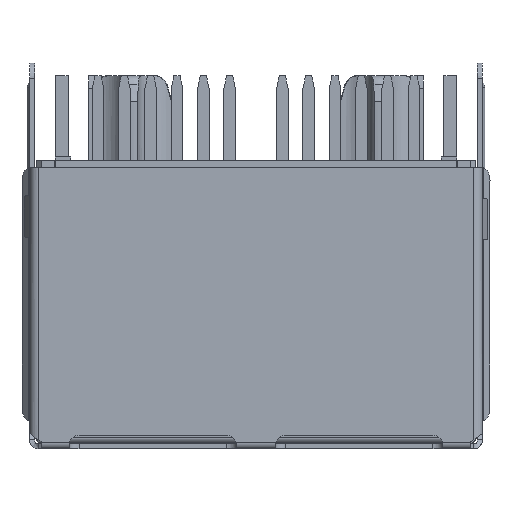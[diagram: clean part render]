
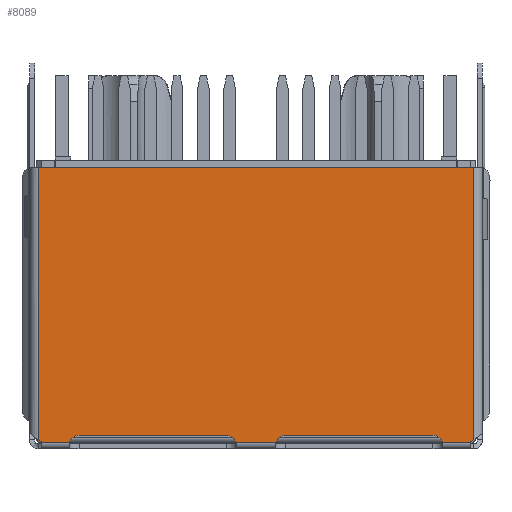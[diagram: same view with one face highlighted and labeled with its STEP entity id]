
A CAD part, front view. The second image highlights one B-rep face of the part: STEP entity #8089.
In plain terms, the highlighted planar face has unit normal (0, -1, 0) as drawn and (1, 0, 0) by its records, which use the part's own axes.
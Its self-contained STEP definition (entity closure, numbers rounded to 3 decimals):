
#2037=DIRECTION('',(0.,-1.,0.));
#2038=VECTOR('',#2037,0.032);
#2039=CARTESIAN_POINT('',(16.019,7.84,8.32));
#2040=LINE('',#2039,#2038);
#2045=CARTESIAN_POINT('',(16.019,7.958,-6.85));
#2046=DIRECTION('',(1.,0.,0.));
#2047=DIRECTION('',(0.,-1.,0.));
#2048=AXIS2_PLACEMENT_3D('',#2045,#2046,#2047);
#2050=DIRECTION('',(0.,-0.609,-0.793));
#2051=VECTOR('',#2050,0.126);
#2052=CARTESIAN_POINT('',(16.019,7.808,-8.32));
#2053=LINE('',#2052,#2051);
#2054=DIRECTION('',(0.,-1.,0.));
#2055=VECTOR('',#2054,10.543);
#2056=CARTESIAN_POINT('',(16.019,7.731,-8.42));
#2057=LINE('',#2056,#2055);
#2058=DIRECTION('',(0.,1.,0.));
#2059=VECTOR('',#2058,10.543);
#2060=CARTESIAN_POINT('',(16.019,-2.812,8.42));
#2061=LINE('',#2060,#2059);
#2062=DIRECTION('',(0.,0.609,-0.793));
#2063=VECTOR('',#2062,0.126);
#2064=CARTESIAN_POINT('',(16.019,7.731,8.42));
#2065=LINE('',#2064,#2063);
#2066=CARTESIAN_POINT('',(16.019,7.958,6.85));
#2067=DIRECTION('',(1.,0.,0.));
#2068=DIRECTION('',(0.,-0.295,0.956));
#2069=AXIS2_PLACEMENT_3D('',#2066,#2067,#2068);
#2071=CARTESIAN_POINT('',(16.019,7.958,1.15));
#2072=DIRECTION('',(1.,0.,0.));
#2073=DIRECTION('',(0.,-1.,0.));
#2074=AXIS2_PLACEMENT_3D('',#2071,#2072,#2073);
#2076=CARTESIAN_POINT('',(16.019,7.958,-1.15));
#2077=DIRECTION('',(1.,0.,0.));
#2078=DIRECTION('',(0.,-0.295,0.956));
#2079=AXIS2_PLACEMENT_3D('',#2076,#2077,#2078);
#2171=DIRECTION('',(0.,0.,1.));
#2172=VECTOR('',#2171,5.7);
#2173=CARTESIAN_POINT('',(16.019,7.558,1.15));
#2174=LINE('',#2173,#2172);
#2292=DIRECTION('',(0.,1.,0.));
#2293=VECTOR('',#2292,0.032);
#2294=CARTESIAN_POINT('',(16.019,7.808,-8.32));
#2295=LINE('',#2294,#2293);
#2520=DIRECTION('',(0.,0.,-1.));
#2521=VECTOR('',#2520,16.84);
#2522=CARTESIAN_POINT('',(16.019,-2.812,8.42));
#2523=LINE('',#2522,#2521);
#2855=DIRECTION('',(0.,0.,1.));
#2856=VECTOR('',#2855,1.088);
#2857=CARTESIAN_POINT('',(16.019,7.84,-8.32));
#2858=LINE('',#2857,#2856);
#2863=DIRECTION('',(0.,0.,1.));
#2864=VECTOR('',#2863,1.535);
#2865=CARTESIAN_POINT('',(16.019,7.84,
-0.768));
#2866=LINE('',#2865,#2864);
#2893=DIRECTION('',(0.,0.,1.));
#2894=VECTOR('',#2893,5.7);
#2895=CARTESIAN_POINT('',(16.019,7.558,-6.85));
#2896=LINE('',#2895,#2894);
#2913=DIRECTION('',(0.,0.,1.));
#2914=VECTOR('',#2913,1.088);
#2915=CARTESIAN_POINT('',(16.019,7.84,7.232));
#2916=LINE('',#2915,#2914);
#4845=CARTESIAN_POINT('',(16.019,7.808,8.32));
#4846=VERTEX_POINT('',#4845);
#4847=CARTESIAN_POINT('',(16.019,7.84,8.32));
#4848=VERTEX_POINT('',#4847);
#4849=CARTESIAN_POINT('',(16.019,7.731,8.42));
#4850=VERTEX_POINT('',#4849);
#4851=CARTESIAN_POINT('',(16.019,7.558,-6.85));
#4852=CARTESIAN_POINT('',(16.019,7.84,-7.232));
#4853=VERTEX_POINT('',#4851);
#4854=VERTEX_POINT('',#4852);
#4855=CARTESIAN_POINT('',(16.019,7.84,-8.32));
#4856=VERTEX_POINT('',#4855);
#4857=CARTESIAN_POINT('',(16.019,7.808,-8.32));
#4858=VERTEX_POINT('',#4857);
#4859=CARTESIAN_POINT('',(16.019,7.731,-8.42));
#4860=VERTEX_POINT('',#4859);
#4861=CARTESIAN_POINT('',(16.019,-2.812,
-8.42));
#4862=VERTEX_POINT('',#4861);
#4863=CARTESIAN_POINT('',(16.019,-2.812,8.42));
#4864=VERTEX_POINT('',#4863);
#4865=CARTESIAN_POINT('',(16.019,7.84,7.232));
#4866=VERTEX_POINT('',#4865);
#4867=CARTESIAN_POINT('',(16.019,7.558,6.85));
#4868=VERTEX_POINT('',#4867);
#4869=CARTESIAN_POINT('',(16.019,7.558,1.15));
#4870=VERTEX_POINT('',#4869);
#4871=CARTESIAN_POINT('',(16.019,7.84,0.768));
#4872=VERTEX_POINT('',#4871);
#4873=CARTESIAN_POINT('',(16.019,7.84,
-0.768));
#4874=VERTEX_POINT('',#4873);
#4875=CARTESIAN_POINT('',(16.019,7.558,-1.15));
#4876=VERTEX_POINT('',#4875);
#8052=CARTESIAN_POINT('',(16.019,8.053,-8.757));
#8053=DIRECTION('',(-1.,0.,0.));
#8054=DIRECTION('',(0.,-1.,0.));
#8055=AXIS2_PLACEMENT_3D('',#8052,#8053,#8054);
#8056=PLANE('',#8055);
#8058=ORIENTED_EDGE('',*,*,#8057,.T.);
#8060=ORIENTED_EDGE('',*,*,#8059,.F.);
#8062=ORIENTED_EDGE('',*,*,#8061,.F.);
#8064=ORIENTED_EDGE('',*,*,#8063,.T.);
#8066=ORIENTED_EDGE('',*,*,#8065,.T.);
#8068=ORIENTED_EDGE('',*,*,#8067,.F.);
#8070=ORIENTED_EDGE('',*,*,#8069,.T.);
#8071=ORIENTED_EDGE('',*,*,#8044,.T.);
#8072=ORIENTED_EDGE('',*,*,#8032,.F.);
#8074=ORIENTED_EDGE('',*,*,#8073,.F.);
#8076=ORIENTED_EDGE('',*,*,#8075,.T.);
#8078=ORIENTED_EDGE('',*,*,#8077,.F.);
#8080=ORIENTED_EDGE('',*,*,#8079,.T.);
#8082=ORIENTED_EDGE('',*,*,#8081,.F.);
#8084=ORIENTED_EDGE('',*,*,#8083,.T.);
#8086=ORIENTED_EDGE('',*,*,#8085,.F.);
#8087=EDGE_LOOP('',(#8058,#8060,#8062,#8064,#8066,#8068,#8070,#8071,#8072,#8074,
#8076,#8078,#8080,#8082,#8084,#8086));
#8088=FACE_OUTER_BOUND('',#8087,.F.);
#8089=ADVANCED_FACE('',(#8088),#8056,.F.);
#2049=CIRCLE('',#2048,0.4);
#2070=CIRCLE('',#2069,0.4);
#2075=CIRCLE('',#2074,0.4);
#2080=CIRCLE('',#2079,0.4);
#8032=EDGE_CURVE('',#4848,#4846,#2040,.T.);
#8044=EDGE_CURVE('',#4850,#4846,#2065,.T.);
#8057=EDGE_CURVE('',#4853,#4854,#2049,.T.);
#8059=EDGE_CURVE('',#4856,#4854,#2858,.T.);
#8061=EDGE_CURVE('',#4858,#4856,#2295,.T.);
#8063=EDGE_CURVE('',#4858,#4860,#2053,.T.);
#8065=EDGE_CURVE('',#4860,#4862,#2057,.T.);
#8067=EDGE_CURVE('',#4864,#4862,#2523,.T.);
#8069=EDGE_CURVE('',#4864,#4850,#2061,.T.);
#8073=EDGE_CURVE('',#4866,#4848,#2916,.T.);
#8075=EDGE_CURVE('',#4866,#4868,#2070,.T.);
#8077=EDGE_CURVE('',#4870,#4868,#2174,.T.);
#8079=EDGE_CURVE('',#4870,#4872,#2075,.T.);
#8081=EDGE_CURVE('',#4874,#4872,#2866,.T.);
#8083=EDGE_CURVE('',#4874,#4876,#2080,.T.);
#8085=EDGE_CURVE('',#4853,#4876,#2896,.T.);
